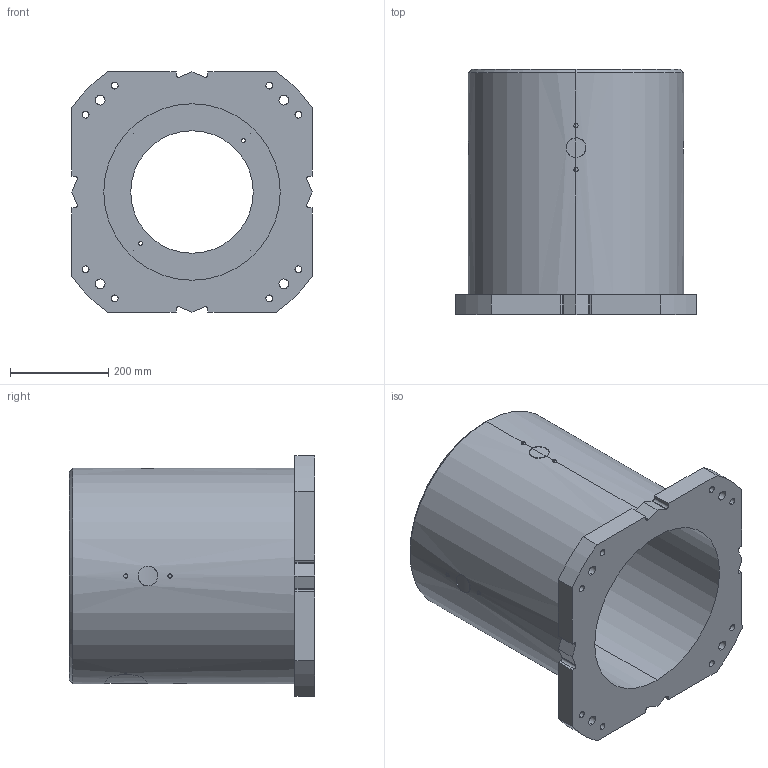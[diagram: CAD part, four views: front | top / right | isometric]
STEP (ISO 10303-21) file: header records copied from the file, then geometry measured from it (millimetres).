
FILE_DESCRIPTION (( 'STEP AP214' ), '1' );
FILE_NAME ('G-500.STEP', '2025-12-05T13:10:12', ( '' ), ( '' ), 'SwSTEP 2.0', 'SolidWorks 2022', '' );
FILE_SCHEMA (( 'AUTOMOTIVE_DESIGN' ));
Length unit declared in the file: millimetre
Products named in the file (1): G-500
Bounding box: 490 x 500 x 490 mm (x, y, z)
Volume: 30004299.9 mm3; surface area: 1644687.1 mm2
Topology: 1 solids, 1 shells, 154 faces, 416 edges, 270 vertices
Faces by surface type: cylinder 100, plane 28, bspline 16, cone 10
Entity records: 9177 total; most frequent: CARTESIAN_POINT 4785, ORIENTED_EDGE 816, DIRECTION 704, EDGE_CURVE 408, VERTEX_POINT 270, AXIS2_PLACEMENT_3D 265, EDGE_LOOP 198, LINE 174
